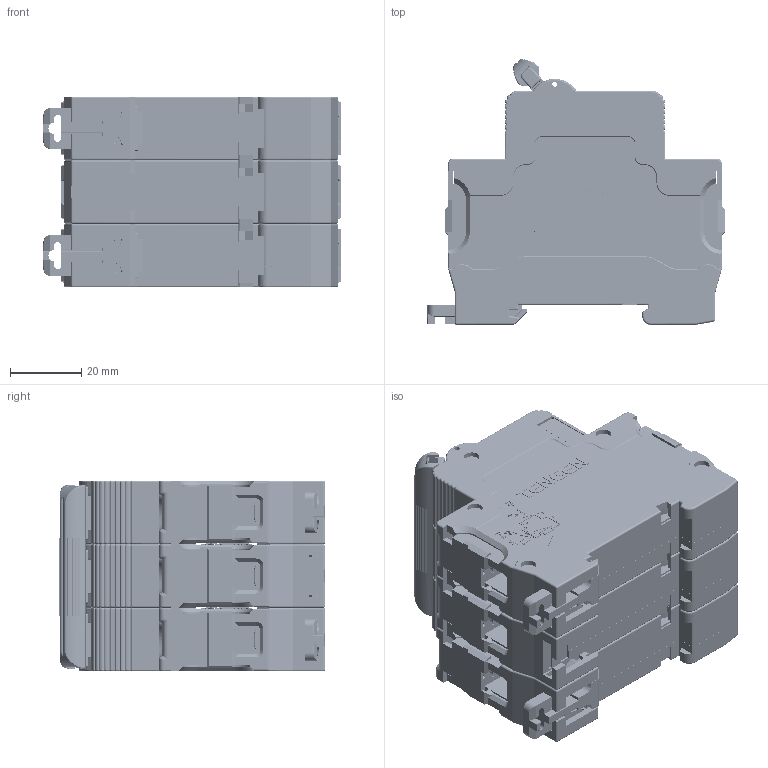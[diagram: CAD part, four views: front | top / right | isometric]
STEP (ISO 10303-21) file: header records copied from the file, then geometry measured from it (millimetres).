
FILE_DESCRIPTION((''),'2;1');
FILE_NAME('3P','2021-03-25T',('chenzhiqiang'),(''),'PRO/ENGINEER BY PARAMETRIC TECHNOLOGY CORPORATION, 2017170','PRO/ENGINEER BY PARAMETRIC TECHNOLOGY CORPORATION, 2017170','');
FILE_SCHEMA(('CONFIG_CONTROL_DESIGN'));
Products named in the file (1): 3P
Bounding box: 83.15 x 74.41 x 53.4 mm (x, y, z)
Volume: 201892.6 mm3; surface area: 63868.6 mm2
Topology: 1 solids, 7 shells, 9030 faces, 24331 edges, 15508 vertices
Faces by surface type: plane 6158, cylinder 1557, torus 495, bspline 428, extrusion 188, cone 173, sphere 31
Entity records: 307819 total; most frequent: CARTESIAN_POINT 85043, ORIENTED_EDGE 48662, DIRECTION 42579, EDGE_CURVE 24331, VECTOR 18657, LINE 18469, VERTEX_POINT 15508, AXIS2_PLACEMENT_3D 11961
